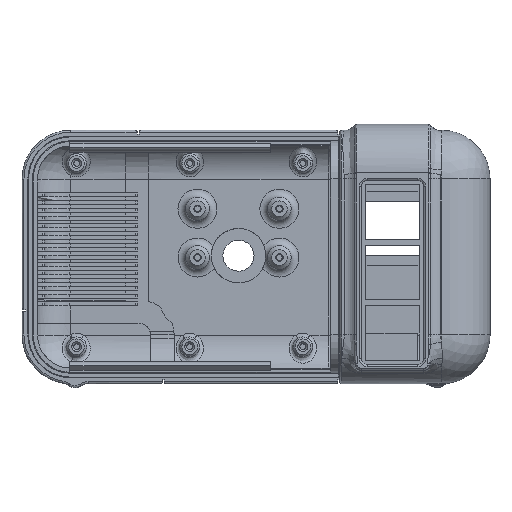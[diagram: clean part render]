
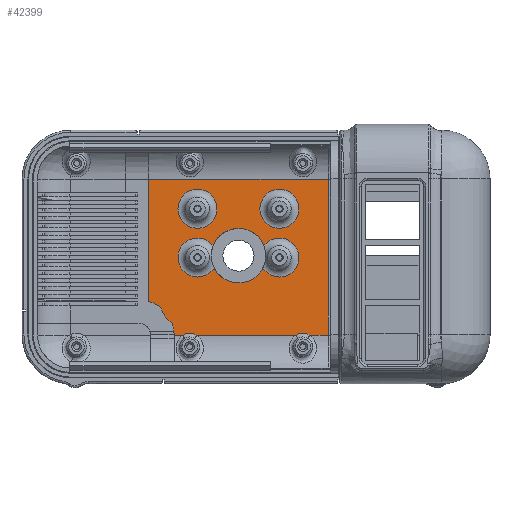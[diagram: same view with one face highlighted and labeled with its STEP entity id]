
A CAD part, top view. The second image highlights one B-rep face of the part: STEP entity #42399.
In plain terms, the highlighted planar face has unit normal (0, 0, 1).
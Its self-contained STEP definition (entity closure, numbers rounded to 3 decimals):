
#2517=CIRCLE('',#43957,3.5);
#2522=CIRCLE('',#43964,3.5);
#3128=CIRCLE('',#45223,5.);
#3129=CIRCLE('',#45225,7.);
#3131=CIRCLE('',#45228,5.);
#3132=CIRCLE('',#45230,7.);
#3134=CIRCLE('',#45233,5.);
#3135=CIRCLE('',#45234,5.);
#3136=CIRCLE('',#45236,7.126);
#3137=CIRCLE('',#45238,9.);
#3138=CIRCLE('',#45240,9.);
#3140=CIRCLE('',#45243,5.);
#3800=FACE_BOUND('',#8627,.T.);
#3801=FACE_BOUND('',#8628,.T.);
#3802=FACE_BOUND('',#8629,.T.);
#6099=FACE_OUTER_BOUND('',#8626,.T.);
#8626=EDGE_LOOP('',(#38531,#38532,#38533,#38534,#38535,#38536,#38537,#38538,
#38539,#38540,#38541));
#8627=EDGE_LOOP('',(#38542));
#8628=EDGE_LOOP('',(#38543,#38544,#38545,#38546,#38547));
#8629=EDGE_LOOP('',(#38548));
#11390=LINE('',#79117,#15205);
#11396=LINE('',#79862,#15211);
#11397=LINE('',#80033,#15212);
#11398=LINE('',#80035,#15213);
#12359=LINE('',#87943,#16174);
#12436=LINE('',#88261,#16251);
#15205=VECTOR('',#51038,10.);
#15211=VECTOR('',#51082,10.);
#15212=VECTOR('',#51083,10.);
#15213=VECTOR('',#51084,10.);
#16174=VECTOR('',#54615,10.);
#16251=VECTOR('',#54864,10.);
#19040=VERTEX_POINT('',#79114);
#19041=VERTEX_POINT('',#79116);
#19052=VERTEX_POINT('',#79662);
#19053=VERTEX_POINT('',#79664);
#19056=VERTEX_POINT('',#79859);
#19057=VERTEX_POINT('',#79861);
#19058=VERTEX_POINT('',#79863);
#19059=VERTEX_POINT('',#80034);
#20174=VERTEX_POINT('',#87878);
#20175=VERTEX_POINT('',#87882);
#20176=VERTEX_POINT('',#87889);
#20177=VERTEX_POINT('',#87901);
#20178=VERTEX_POINT('',#87910);
#20179=VERTEX_POINT('',#87921);
#20180=VERTEX_POINT('',#87926);
#20181=VERTEX_POINT('',#87928);
#20182=VERTEX_POINT('',#87932);
#20183=VERTEX_POINT('',#87939);
#24360=EDGE_CURVE('',#19041,#19040,#11390,.T.);
#24382=EDGE_CURVE('',#19052,#19053,#2517,.T.);
#24385=EDGE_CURVE('',#19057,#19056,#11396,.T.);
#24387=EDGE_CURVE('',#19052,#19058,#11397,.T.);
#24388=EDGE_CURVE('',#19059,#19053,#11398,.T.);
#24392=EDGE_CURVE('',#19057,#19058,#2522,.T.);
#26255=EDGE_CURVE('',#20174,#20174,#3128,.T.);
#26257=EDGE_CURVE('',#20176,#20175,#3129,.T.);
#26260=EDGE_CURVE('',#20176,#20177,#3131,.T.);
#26263=EDGE_CURVE('',#20178,#20177,#3132,.T.);
#26265=EDGE_CURVE('',#20179,#20175,#3134,.T.);
#26266=EDGE_CURVE('',#20178,#20179,#3135,.T.);
#26269=EDGE_CURVE('',#20181,#20180,#3136,.T.);
#26270=EDGE_CURVE('',#20180,#20182,#3137,.T.);
#26273=EDGE_CURVE('',#19059,#20181,#3138,.T.);
#26275=EDGE_CURVE('',#20183,#20183,#3140,.T.);
#26276=EDGE_CURVE('',#19040,#20182,#12359,.F.);
#26388=EDGE_CURVE('',#19041,#19056,#12436,.T.);
#38531=ORIENTED_EDGE('',*,*,#24382,.F.);
#38532=ORIENTED_EDGE('',*,*,#24387,.T.);
#38533=ORIENTED_EDGE('',*,*,#24392,.F.);
#38534=ORIENTED_EDGE('',*,*,#24385,.T.);
#38535=ORIENTED_EDGE('',*,*,#26388,.F.);
#38536=ORIENTED_EDGE('',*,*,#24360,.T.);
#38537=ORIENTED_EDGE('',*,*,#26276,.T.);
#38538=ORIENTED_EDGE('',*,*,#26270,.F.);
#38539=ORIENTED_EDGE('',*,*,#26269,.F.);
#38540=ORIENTED_EDGE('',*,*,#26273,.F.);
#38541=ORIENTED_EDGE('',*,*,#24388,.T.);
#38542=ORIENTED_EDGE('',*,*,#26275,.F.);
#38543=ORIENTED_EDGE('',*,*,#26266,.F.);
#38544=ORIENTED_EDGE('',*,*,#26263,.T.);
#38545=ORIENTED_EDGE('',*,*,#26260,.F.);
#38546=ORIENTED_EDGE('',*,*,#26257,.T.);
#38547=ORIENTED_EDGE('',*,*,#26265,.F.);
#38548=ORIENTED_EDGE('',*,*,#26255,.F.);
#40076=PLANE('',#45330);
#42399=ADVANCED_FACE('',(#6099,#3800,#3801,#3802),#40076,.F.);
#43957=AXIS2_PLACEMENT_3D('',#79854,#51075,#51076);
#43964=AXIS2_PLACEMENT_3D('',#80159,#51093,#51094);
#45223=AXIS2_PLACEMENT_3D('',#87880,#54567,#54568);
#45225=AXIS2_PLACEMENT_3D('',#87890,#54571,#54572);
#45228=AXIS2_PLACEMENT_3D('',#87902,#54577,#54578);
#45230=AXIS2_PLACEMENT_3D('',#87919,#54581,#54582);
#45233=AXIS2_PLACEMENT_3D('',#87923,#54587,#54588);
#45234=AXIS2_PLACEMENT_3D('',#87924,#54589,#54590);
#45236=AXIS2_PLACEMENT_3D('',#87930,#54595,#54596);
#45238=AXIS2_PLACEMENT_3D('',#87933,#54599,#54600);
#45240=AXIS2_PLACEMENT_3D('',#87937,#54605,#54606);
#45243=AXIS2_PLACEMENT_3D('',#87941,#54611,#54612);
#45330=AXIS2_PLACEMENT_3D('',#88260,#54862,#54863);
#51038=DIRECTION('',(-1.,0.,0.));
#51075=DIRECTION('center_axis',(0.,0.,1.));
#51076=DIRECTION('ref_axis',(-0.515,0.857,0.));
#51082=DIRECTION('',(1.,0.,0.));
#51083=DIRECTION('',(1.,0.,0.));
#51084=DIRECTION('',(1.,0.,0.));
#51093=DIRECTION('center_axis',(0.,0.,1.));
#51094=DIRECTION('ref_axis',(-0.515,0.857,0.));
#54567=DIRECTION('center_axis',(0.,0.,1.));
#54568=DIRECTION('ref_axis',(1.,0.,0.));
#54571=DIRECTION('center_axis',(0.,0.,-1.));
#54572=DIRECTION('ref_axis',(0.979,0.202,0.));
#54577=DIRECTION('center_axis',(0.,0.,1.));
#54578=DIRECTION('ref_axis',(1.,0.,0.));
#54581=DIRECTION('center_axis',(0.,0.,-1.));
#54582=DIRECTION('ref_axis',(-0.98,-0.2,0.));
#54587=DIRECTION('center_axis',(0.,0.,1.));
#54588=DIRECTION('ref_axis',(1.,0.,0.));
#54589=DIRECTION('center_axis',(0.,0.,1.));
#54590=DIRECTION('ref_axis',(1.,0.,0.));
#54595=DIRECTION('center_axis',(0.,0.,-1.));
#54596=DIRECTION('ref_axis',(0.,-1.,0.));
#54599=DIRECTION('center_axis',(0.,0.,1.));
#54600=DIRECTION('ref_axis',(0.,1.,0.));
#54605=DIRECTION('center_axis',(0.,0.,1.));
#54606=DIRECTION('ref_axis',(0.,1.,0.));
#54611=DIRECTION('center_axis',(0.,0.,1.));
#54612=DIRECTION('ref_axis',(1.,0.,0.));
#54615=DIRECTION('',(0.,1.,0.));
#54862=DIRECTION('center_axis',(0.,0.,-1.));
#54863=DIRECTION('ref_axis',(-1.,0.,0.));
#54864=DIRECTION('',(0.,-1.,0.));
#79114=CARTESIAN_POINT('',(3.5,52.5,-17.5));
#79116=CARTESIAN_POINT('',(49.5,52.5,-17.5));
#79117=CARTESIAN_POINT('',(59.75,52.5,-17.5));
#79662=CARTESIAN_POINT('',(15.803,12.5,-17.5));
#79664=CARTESIAN_POINT('',(12.197,12.5,-17.5));
#79854=CARTESIAN_POINT('Origin',(14.,9.5,-17.5));
#79859=CARTESIAN_POINT('',(49.5,12.5,-17.5));
#79861=CARTESIAN_POINT('',(44.803,12.5,-17.5));
#79862=CARTESIAN_POINT('',(59.75,12.5,-17.5));
#79863=CARTESIAN_POINT('',(41.197,12.5,-17.5));
#80033=CARTESIAN_POINT('',(59.75,12.5,-17.5));
#80034=CARTESIAN_POINT('',(10.,12.5,-17.5));
#80035=CARTESIAN_POINT('',(59.75,12.5,-17.5));
#80159=CARTESIAN_POINT('Origin',(43.,9.5,-17.5));
#87878=CARTESIAN_POINT('',(21.,44.9,-17.5));
#87880=CARTESIAN_POINT('Origin',(16.,44.9,-17.5));
#87882=CARTESIAN_POINT('',(33.019,35.425,-17.5));
#87889=CARTESIAN_POINT('',(19.994,35.408,-17.5));
#87890=CARTESIAN_POINT('Origin',(26.51,32.85,-17.5));
#87901=CARTESIAN_POINT('',(20.245,29.758,-17.5));
#87902=CARTESIAN_POINT('Origin',(16.,32.4,-17.5));
#87910=CARTESIAN_POINT('',(32.755,29.758,-17.5));
#87919=CARTESIAN_POINT('Origin',(26.5,32.9,-17.5));
#87921=CARTESIAN_POINT('',(42.,32.4,-17.5));
#87923=CARTESIAN_POINT('Origin',(37.,32.4,-17.5));
#87924=CARTESIAN_POINT('Origin',(37.,32.4,-17.5));
#87926=CARTESIAN_POINT('',(6.624,19.526,-17.5));
#87928=CARTESIAN_POINT('',(9.48,15.516,-17.5));
#87930=CARTESIAN_POINT('Origin',(13.5,21.4,-17.5));
#87932=CARTESIAN_POINT('',(3.5,21.146,-17.5));
#87933=CARTESIAN_POINT('Origin',(1.,12.5,-17.5));
#87937=CARTESIAN_POINT('Origin',(1.,12.5,-17.5));
#87939=CARTESIAN_POINT('',(42.,44.9,-17.5));
#87941=CARTESIAN_POINT('Origin',(37.,44.9,-17.5));
#87943=CARTESIAN_POINT('',(3.5,-2.5,-17.5));
#88260=CARTESIAN_POINT('Origin',(91.,0.,-17.5));
#88261=CARTESIAN_POINT('',(49.5,34.,-17.5));
